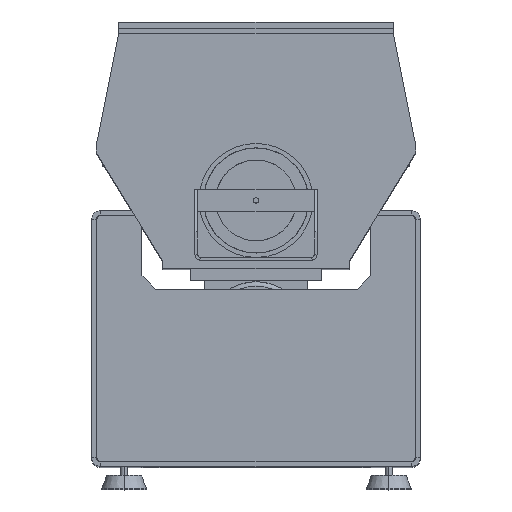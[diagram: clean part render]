
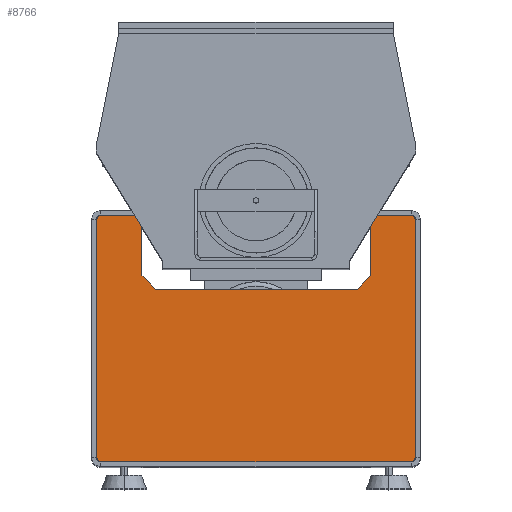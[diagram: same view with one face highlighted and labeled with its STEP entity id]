
A CAD part, top view. The second image highlights one B-rep face of the part: STEP entity #8766.
In plain terms, the highlighted planar face has unit normal (0, 0, 1).
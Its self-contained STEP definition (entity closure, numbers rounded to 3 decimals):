
#339 = CARTESIAN_POINT ( 'NONE',  ( -195.285, 132.111, 766.4 ) ) ;
#352 = VERTEX_POINT ( 'NONE', #4796 ) ;
#477 = EDGE_CURVE ( 'NONE', #13819, #8038, #5636, .T. ) ;
#605 = CARTESIAN_POINT ( 'NONE',  ( -180.285, 132.111, 766.4 ) ) ;
#905 = VERTEX_POINT ( 'NONE', #339 ) ;
#906 = VECTOR ( 'NONE', #4302, 1000. ) ;
#996 = CIRCLE ( 'NONE', #9118, 15. ) ;
#1056 = ORIENTED_EDGE ( 'NONE', *, *, #3334, .T. ) ;
#1150 = VECTOR ( 'NONE', #8902, 1000. ) ;
#1158 = VECTOR ( 'NONE', #9795, 1000. ) ;
#1209 = ORIENTED_EDGE ( 'NONE', *, *, #2368, .T. ) ;
#1514 = VECTOR ( 'NONE', #11389, 1000. ) ;
#1531 = EDGE_CURVE ( 'NONE', #4247, #905, #10761, .T. ) ;
#1686 = AXIS2_PLACEMENT_3D ( 'NONE', #5053, #3388, #1716 ) ;
#1716 = DIRECTION ( 'NONE',  ( 1., 0., 0. ) ) ;
#1874 = ORIENTED_EDGE ( 'NONE', *, *, #11133, .F. ) ;
#2209 = ORIENTED_EDGE ( 'NONE', *, *, #8188, .F. ) ;
#2364 = ORIENTED_EDGE ( 'NONE', *, *, #1531, .T. ) ;
#2365 = VERTEX_POINT ( 'NONE', #12053 ) ;
#2368 = EDGE_CURVE ( 'NONE', #8038, #4117, #13741, .T. ) ;
#2688 = VECTOR ( 'NONE', #4489, 1000. ) ;
#2790 = DIRECTION ( 'NONE',  ( 1., 0., 0. ) ) ;
#2945 = VERTEX_POINT ( 'NONE', #7249 ) ;
#3113 = CARTESIAN_POINT ( 'NONE',  ( -180.285, -402.889, 766.4 ) ) ;
#3334 = EDGE_CURVE ( 'NONE', #12566, #4247, #12298, .T. ) ;
#3388 = DIRECTION ( 'NONE',  ( 0., 0., 1. ) ) ;
#3834 = VERTEX_POINT ( 'NONE', #8591 ) ;
#4117 = VERTEX_POINT ( 'NONE', #8310 ) ;
#4247 = VERTEX_POINT ( 'NONE', #14390 ) ;
#4302 = DIRECTION ( 'NONE',  ( 1., 0., 0. ) ) ;
#4380 = CARTESIAN_POINT ( 'NONE',  ( 501.715, 147.111, 766.4 ) ) ;
#4460 = DIRECTION ( 'NONE',  ( 0., 0., 1. ) ) ;
#4489 = DIRECTION ( 'NONE',  ( 0., 1., 0. ) ) ;
#4505 = DIRECTION ( 'NONE',  ( 0.707, 0.707, 0. ) ) ;
#4691 = DIRECTION ( 'NONE',  ( 0., 1., 0. ) ) ;
#4705 = EDGE_LOOP ( 'NONE', ( #8060, #1056, #2364, #6583, #7172, #1209, #9123, #9156, #15652, #5496, #2209, #6013, #12941, #1874 ) ) ;
#4796 = CARTESIAN_POINT ( 'NONE',  ( 416.715, 147.111, 766.4 ) ) ;
#5053 = CARTESIAN_POINT ( 'NONE',  ( 516.715, -402.889, 766.4 ) ) ;
#5496 = ORIENTED_EDGE ( 'NONE', *, *, #9222, .T. ) ;
#5636 = CIRCLE ( 'NONE', #11615, 15. ) ;
#5990 = CARTESIAN_POINT ( 'NONE',  ( 386.715, -17.889, 766.4 ) ) ;
#6013 = ORIENTED_EDGE ( 'NONE', *, *, #7787, .F. ) ;
#6143 = CARTESIAN_POINT ( 'NONE',  ( 501.715, -387.889, 766.4 ) ) ;
#6171 = CARTESIAN_POINT ( 'NONE',  ( 416.715, 12.111, 766.4 ) ) ;
#6182 = CARTESIAN_POINT ( 'NONE',  ( -180.285, -387.889, 766.4 ) ) ;
#6187 = CARTESIAN_POINT ( 'NONE',  ( 416.715, 12.111, 766.4 ) ) ;
#6308 = LINE ( 'NONE', #16063, #7229 ) ;
#6374 = CARTESIAN_POINT ( 'NONE',  ( 516.715, -402.889, 766.4 ) ) ;
#6583 = ORIENTED_EDGE ( 'NONE', *, *, #15088, .T. ) ;
#6584 = CIRCLE ( 'NONE', #13573, 15. ) ;
#6629 = VERTEX_POINT ( 'NONE', #4380 ) ;
#6751 = PLANE ( 'NONE',  #1686 ) ;
#6976 = DIRECTION ( 'NONE',  ( 1., 0., 0. ) ) ;
#7026 = VERTEX_POINT ( 'NONE', #12014 ) ;
#7100 = EDGE_CURVE ( 'NONE', #4117, #13187, #996, .T. ) ;
#7172 = ORIENTED_EDGE ( 'NONE', *, *, #477, .T. ) ;
#7229 = VECTOR ( 'NONE', #14378, 1000. ) ;
#7249 = CARTESIAN_POINT ( 'NONE',  ( 516.715, 132.111, 766.4 ) ) ;
#7682 = LINE ( 'NONE', #5990, #906 ) ;
#7787 = EDGE_CURVE ( 'NONE', #7026, #3834, #9555, .T. ) ;
#7863 = LINE ( 'NONE', #6171, #2688 ) ;
#8038 = VERTEX_POINT ( 'NONE', #3113 ) ;
#8060 = ORIENTED_EDGE ( 'NONE', *, *, #11549, .F. ) ;
#8065 = LINE ( 'NONE', #6374, #8199 ) ;
#8188 = EDGE_CURVE ( 'NONE', #3834, #352, #7863, .T. ) ;
#8199 = VECTOR ( 'NONE', #4691, 1000. ) ;
#8310 = CARTESIAN_POINT ( 'NONE',  ( 501.715, -402.889, 766.4 ) ) ;
#8591 = CARTESIAN_POINT ( 'NONE',  ( 416.715, 12.111, 766.4 ) ) ;
#8645 = CARTESIAN_POINT ( 'NONE',  ( 516.715, -402.889, 766.4 ) ) ;
#8766 = ADVANCED_FACE ( 'NONE', ( #15185 ), #6751, .T. ) ;
#8902 = DIRECTION ( 'NONE',  ( -1., 0., 0. ) ) ;
#9111 = VECTOR ( 'NONE', #6976, 1000. ) ;
#9118 = AXIS2_PLACEMENT_3D ( 'NONE', #6143, #4460, #2790 ) ;
#9123 = ORIENTED_EDGE ( 'NONE', *, *, #7100, .T. ) ;
#9156 = ORIENTED_EDGE ( 'NONE', *, *, #12356, .T. ) ;
#9222 = EDGE_CURVE ( 'NONE', #6629, #352, #13188, .T. ) ;
#9555 = LINE ( 'NONE', #6187, #13834 ) ;
#9770 = CARTESIAN_POINT ( 'NONE',  ( -93.285, 147.111, 766.4 ) ) ;
#9795 = DIRECTION ( 'NONE',  ( -1., 0., 0. ) ) ;
#10606 = CARTESIAN_POINT ( 'NONE',  ( 516.715, 147.111, 766.4 ) ) ;
#10700 = CARTESIAN_POINT ( 'NONE',  ( 516.715, -387.889, 766.4 ) ) ;
#10761 = CIRCLE ( 'NONE', #16156, 15. ) ;
#11133 = EDGE_CURVE ( 'NONE', #2365, #14408, #14800, .T. ) ;
#11319 = LINE ( 'NONE', #14315, #14417 ) ;
#11389 = DIRECTION ( 'NONE',  ( 0.707, -0.707, 0. ) ) ;
#11492 = CARTESIAN_POINT ( 'NONE',  ( 516.715, 147.111, 766.4 ) ) ;
#11549 = EDGE_CURVE ( 'NONE', #12566, #2365, #6308, .T. ) ;
#11615 = AXIS2_PLACEMENT_3D ( 'NONE', #6182, #15935, #14246 ) ;
#11775 = CARTESIAN_POINT ( 'NONE',  ( -195.285, -387.889, 766.4 ) ) ;
#12014 = CARTESIAN_POINT ( 'NONE',  ( 386.715, -17.889, 766.4 ) ) ;
#12053 = CARTESIAN_POINT ( 'NONE',  ( -93.285, 12.111, 766.4 ) ) ;
#12298 = LINE ( 'NONE', #10606, #1150 ) ;
#12356 = EDGE_CURVE ( 'NONE', #13187, #2945, #8065, .T. ) ;
#12566 = VERTEX_POINT ( 'NONE', #9770 ) ;
#12620 = DIRECTION ( 'NONE',  ( 0., -1., 0. ) ) ;
#12941 = ORIENTED_EDGE ( 'NONE', *, *, #14376, .F. ) ;
#12973 = DIRECTION ( 'NONE',  ( 1., 0., 0. ) ) ;
#13095 = CARTESIAN_POINT ( 'NONE',  ( -93.285, 12.111, 766.4 ) ) ;
#13187 = VERTEX_POINT ( 'NONE', #10700 ) ;
#13188 = LINE ( 'NONE', #11492, #1158 ) ;
#13573 = AXIS2_PLACEMENT_3D ( 'NONE', #16362, #14674, #12973 ) ;
#13640 = CARTESIAN_POINT ( 'NONE',  ( -63.285, -17.889, 766.4 ) ) ;
#13694 = DIRECTION ( 'NONE',  ( 1., 0., 0. ) ) ;
#13741 = LINE ( 'NONE', #8645, #9111 ) ;
#13819 = VERTEX_POINT ( 'NONE', #11775 ) ;
#13834 = VECTOR ( 'NONE', #4505, 1000. ) ;
#14246 = DIRECTION ( 'NONE',  ( 1., 0., 0. ) ) ;
#14315 = CARTESIAN_POINT ( 'NONE',  ( -195.285, -402.889, 766.4 ) ) ;
#14376 = EDGE_CURVE ( 'NONE', #14408, #7026, #7682, .T. ) ;
#14378 = DIRECTION ( 'NONE',  ( 0., -1., 0. ) ) ;
#14390 = CARTESIAN_POINT ( 'NONE',  ( -180.285, 147.111, 766.4 ) ) ;
#14408 = VERTEX_POINT ( 'NONE', #13640 ) ;
#14417 = VECTOR ( 'NONE', #12620, 1000. ) ;
#14674 = DIRECTION ( 'NONE',  ( 0., 0., 1. ) ) ;
#14800 = LINE ( 'NONE', #13095, #1514 ) ;
#15088 = EDGE_CURVE ( 'NONE', #905, #13819, #11319, .T. ) ;
#15185 = FACE_OUTER_BOUND ( 'NONE', #4705, .T. ) ;
#15401 = DIRECTION ( 'NONE',  ( 0., 0., 1. ) ) ;
#15652 = ORIENTED_EDGE ( 'NONE', *, *, #15759, .T. ) ;
#15759 = EDGE_CURVE ( 'NONE', #2945, #6629, #6584, .T. ) ;
#15935 = DIRECTION ( 'NONE',  ( 0., 0., 1. ) ) ;
#16063 = CARTESIAN_POINT ( 'NONE',  ( -93.285, 147.111, 766.4 ) ) ;
#16156 = AXIS2_PLACEMENT_3D ( 'NONE', #605, #15401, #13694 ) ;
#16362 = CARTESIAN_POINT ( 'NONE',  ( 501.715, 132.111, 766.4 ) ) ;
